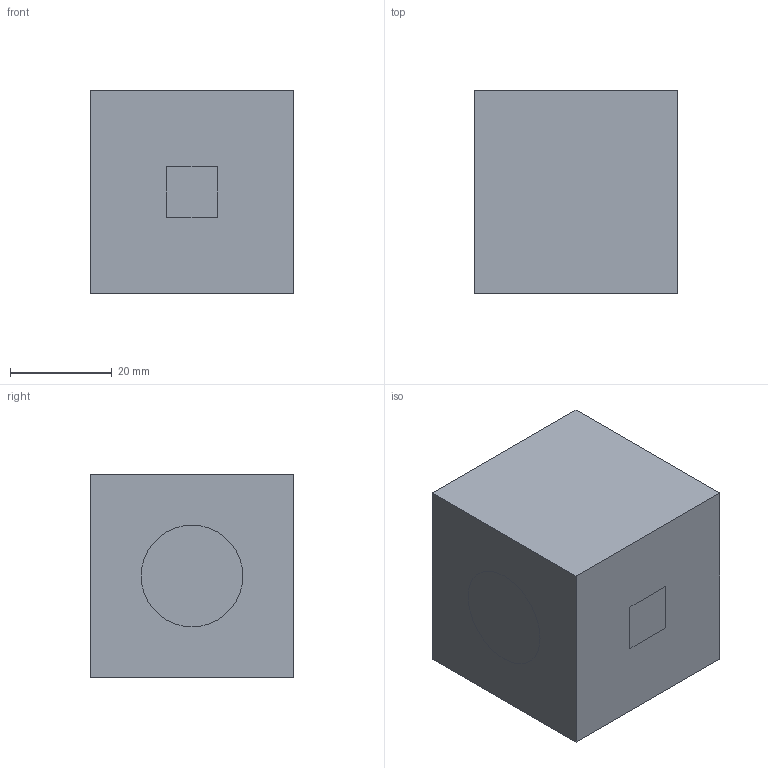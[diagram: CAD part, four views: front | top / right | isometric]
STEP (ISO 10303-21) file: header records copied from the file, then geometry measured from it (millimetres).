
FILE_DESCRIPTION(/* description */ (''),/* implementation_level */ '2;1');
FILE_NAME(/* name */ 'E:\OneDrive\Desktop\N5_GC_Sections\Task 3\ASSY_Task_3.stp',/* time_stamp */ '2020-06-08T12:26:17+01:00',/* author */ ('hunte'),/* organization */ (''),/* preprocessor_version */ 'ST-DEVELOPER v18.1',/* originating_system */ 'Autodesk Inventor 2020',/* authorisation */ '');
FILE_SCHEMA (('AUTOMOTIVE_DESIGN { 1 0 10303 214 3 1 1 }'));
Length unit declared in the file: millimetre
Products named in the file (4): ASSY_Task_3; PRT_A; PRT_B; PRT_C
Assembly tree (3 placements, depth 2):
  ASSY_Task_3
    PRT_A
    PRT_B
    PRT_C
Bounding box: 40 x 40 x 40 mm (x, y, z)
Volume: 64000 mm3; surface area: 17407.7 mm2
Topology: 3 solids, 3 shells, 28 faces, 74 edges, 50 vertices
Faces by surface type: plane 26, cylinder 2
Full cylindrical faces by diameter (mm): 20 x2
Entity records: 1031 total; most frequent: DIRECTION 162, CARTESIAN_POINT 159, ORIENTED_EDGE 148, EDGE_CURVE 74, LINE 56, VECTOR 56, AXIS2_PLACEMENT_3D 53, VERTEX_POINT 50
